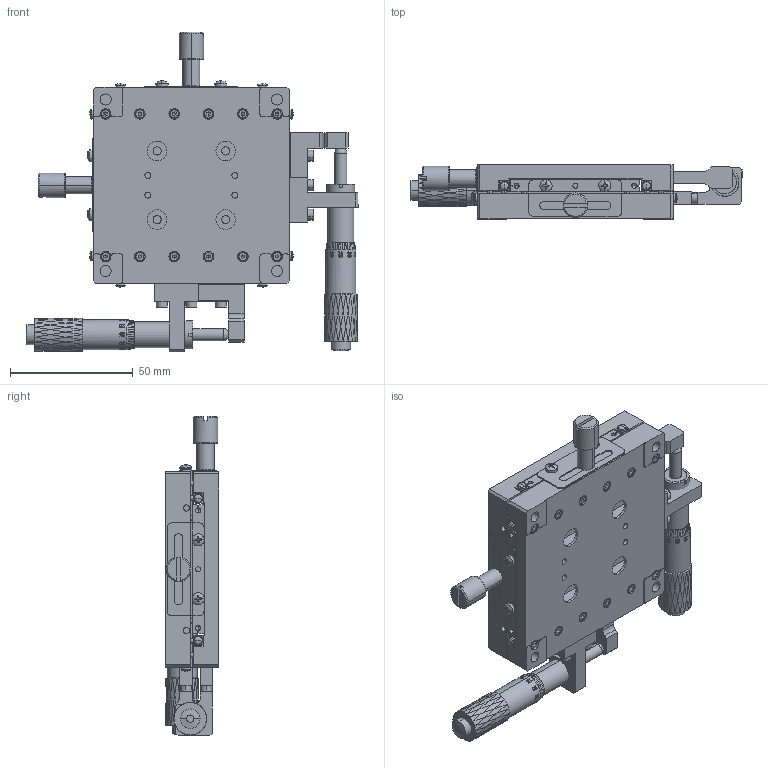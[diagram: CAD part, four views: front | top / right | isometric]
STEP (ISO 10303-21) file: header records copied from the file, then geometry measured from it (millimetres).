
FILE_DESCRIPTION (( 'STEP AP203' ), '1' );
FILE_NAME ('BPBB80.STEP', '2024-01-09T00:41:41', ( 'China' ), ( 'Microsoft' ), 'SwSTEP 2.0', 'SolidWorks 2024', '' );
FILE_SCHEMA (( 'CONFIG_CONTROL_DESIGN' ));
Products named in the file (1): BPBB80
Bounding box: 135.5 x 22 x 130.5 mm (x, y, z)
Volume: 135855.7 mm3; surface area: 89682.8 mm2
Topology: 60 solids, 60 shells, 3700 faces, 9356 edges, 5941 vertices
Faces by surface type: bspline 1126, plane 1030, cylinder 1014, cone 418, torus 100, sphere 12
Entity records: 196841 total; most frequent: CARTESIAN_POINT 118334, ORIENTED_EDGE 18412, DIRECTION 12446, EDGE_CURVE 9206, VERTEX_POINT 5941, AXIS2_PLACEMENT_3D 4815, EDGE_LOOP 4257, B_SPLINE_CURVE_WITH_KNOTS 3708
